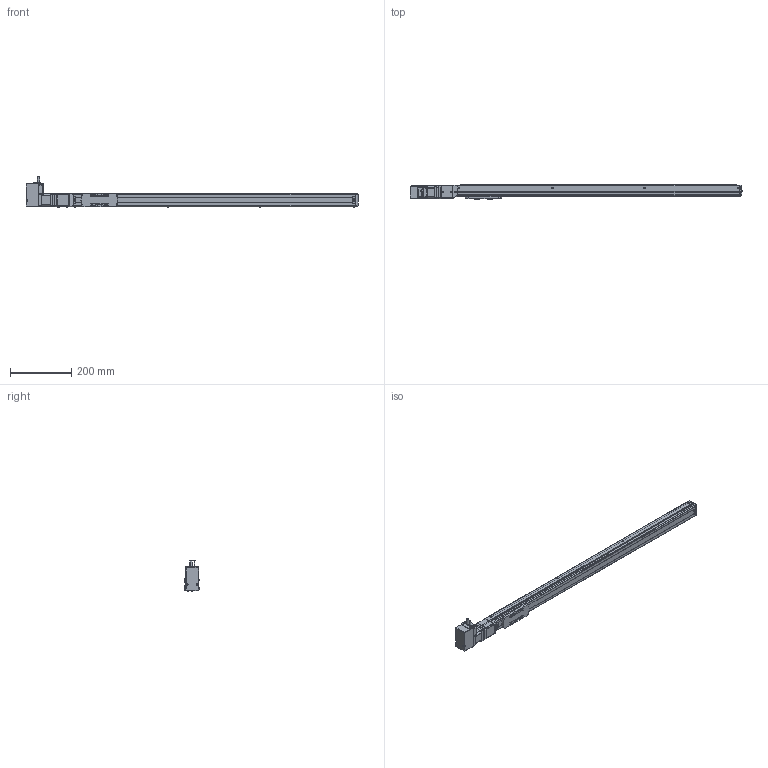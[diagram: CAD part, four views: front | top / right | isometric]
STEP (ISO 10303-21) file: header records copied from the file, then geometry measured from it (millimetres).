
FILE_DESCRIPTION(('FreeCAD Model'),'2;1');
FILE_NAME('Open CASCADE Shape Model','2023-08-01T18:22:31',('Author'),( ''),'Open CASCADE STEP processor 7.5','FreeCAD','Unknown');
FILE_SCHEMA(('AUTOMOTIVE_DESIGN { 1 0 10303 214 1 1 1 1 }'));
Length unit declared in the file: millimetre
Products named in the file (20): RCB0411; Shapes; Shapes001; Shapes002; Shapes003; Shapes004; Shapes005; Shapes006; Shapes007; Shapes008; Shapes009; Shapes010; Shapes011; Shapes012; Shapes013; KSF4-10-0750-0-AR(0); KSF4---(Cover); KSF4-AR---(Motor bracket); KSF4-10-0750---(slider); KSF4-10-0750-0-AR-(07500ARNo0)---(body)
Assembly tree (19 placements, depth 3):
  RCB0411
    Shapes
    Shapes001
    Shapes002
    Shapes003
    Shapes004
    Shapes005
    Shapes006
    Shapes007
    Shapes008
    Shapes009
    Shapes010
    Shapes011
    Shapes012
    Shapes013
    KSF4-10-0750-0-AR(0)
      KSF4---(Cover)
      KSF4-AR---(Motor bracket)
      KSF4-10-0750---(slider)
      KSF4-10-0750-0-AR-(07500ARNo0)---(body)
Bounding box: 1082 x 46 x 98.19 mm (x, y, z)
Volume: 1709631.3 mm3; surface area: 318063.5 mm2
Topology: 18 solids, 18 shells, 1301 faces, 3354 edges, 2188 vertices
Faces by surface type: plane 719, cylinder 432, cone 68, torus 53, bspline 19, revolution 6, sphere 4
Full cylindrical faces by diameter (mm): 2.113 x8, 2.459 x3, 3 x6, 3.242 x4, 3.4 x18, 4 x3, 4.5 x2, 5.5 x8, 6 x1, 6.5 x20, 8 x1, 12 x1, 22 x1, 28 x1, 30 x2
Entity records: 94882 total; most frequent: CARTESIAN_POINT 27154, DIRECTION 12729, LINE 7559, VECTOR 7559, ORIENTED_EDGE 6672, PCURVE 6672, DEFINITIONAL_REPRESENTATION 6672, EDGE_CURVE 3336
